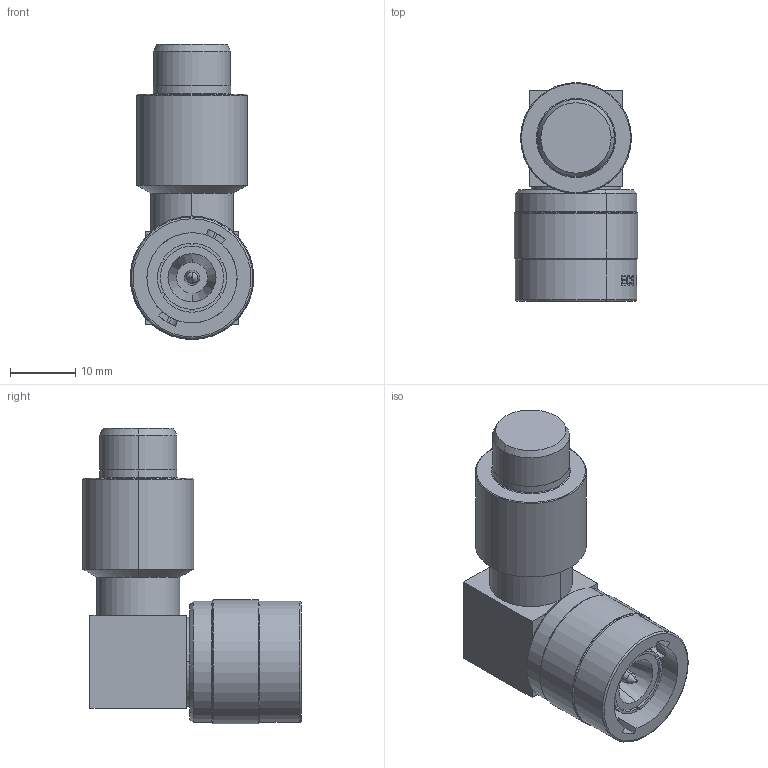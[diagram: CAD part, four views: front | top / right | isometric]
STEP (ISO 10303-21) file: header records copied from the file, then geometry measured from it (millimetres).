
FILE_DESCRIPTION((''),'2;1');
FILE_NAME('CCR002','2019-12-02T16:14:53',('paul.nurczyk'),('Carlisle Interconnect Technologies'),'CREO PARAMETRIC BY PTC INC, 2017260','CREO PARAMETRIC BY PTC INC, 2017260','');
FILE_SCHEMA(('CONFIG_CONTROL_DESIGN'));
Length unit declared in the file: inch
Products named in the file (1): CCR002
Bounding box: 18.9 x 33.38 x 45.12 mm (x, y, z)
Volume: 11675.7 mm3; surface area: 4958.2 mm2
Topology: 1 solids, 11 shells, 131 faces, 620 edges, 510 vertices
Faces by surface type: cylinder 50, plane 37, bspline 18, cone 18, torus 8
Entity records: 7669 total; most frequent: CARTESIAN_POINT 3239, ORIENTED_EDGE 908, DIRECTION 715, EDGE_CURVE 620, VERTEX_POINT 510, B_SPLINE_CURVE_WITH_KNOTS 288, AXIS2_PLACEMENT_3D 269, VECTOR 177
